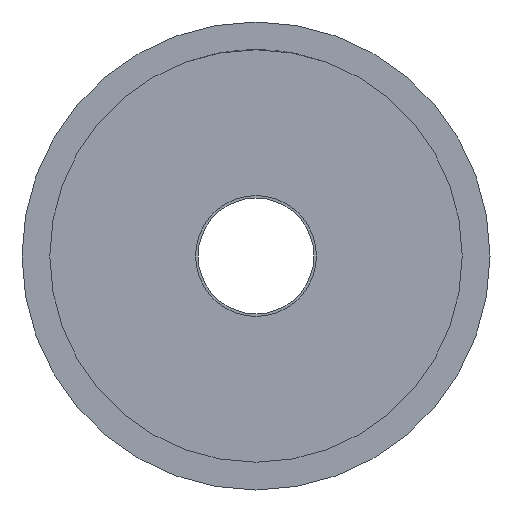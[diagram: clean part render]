
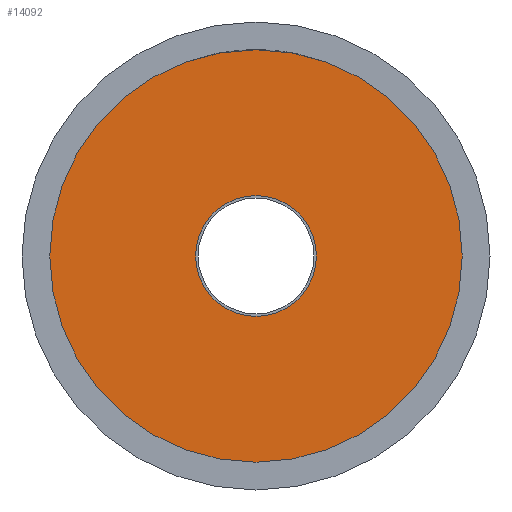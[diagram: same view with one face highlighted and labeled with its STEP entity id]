
A CAD part, front view. The second image highlights one B-rep face of the part: STEP entity #14092.
In plain terms, the highlighted planar face has unit normal (0, -1, 0).
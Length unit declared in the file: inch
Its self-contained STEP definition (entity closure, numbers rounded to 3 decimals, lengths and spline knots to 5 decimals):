
#13775=CARTESIAN_POINT('',(5.11811,2.55906,0.0));
#13776=VERTEX_POINT('',#13775);
#13777=CARTESIAN_POINT('',(0.0,2.55906,0.0));
#13778=DIRECTION('',(0.0,-1.0,0.0));
#13779=DIRECTION('',(1.0,0.0,0.0));
#13780=AXIS2_PLACEMENT_3D('',#13777,#13778,#13779);
#13781=CIRCLE('',#13780,5.11811);
#13782=EDGE_CURVE('',#13776,#13776,#13781,.T.);
#14073=CARTESIAN_POINT('',(3.30906,2.55906,0.0));
#14074=DIRECTION('',(0.0,-1.0,0.0));
#14075=DIRECTION('',(0.0,0.0,-1.0));
#14076=AXIS2_PLACEMENT_3D('',#14073,#14074,#14075);
#14077=PLANE('',#14076);
#14078=ORIENTED_EDGE('',*,*,#13782,.T.);
#14079=EDGE_LOOP('',(#14078));
#14080=FACE_OUTER_BOUND('',#14079,.T.);
#14081=CARTESIAN_POINT('',(1.5,2.55906,0.0));
#14082=VERTEX_POINT('',#14081);
#14083=CARTESIAN_POINT('',(0.0,2.55906,0.0));
#14084=DIRECTION('',(0.0,-1.0,0.0));
#14085=DIRECTION('',(1.0,0.0,0.0));
#14086=AXIS2_PLACEMENT_3D('',#14083,#14084,#14085);
#14087=CIRCLE('',#14086,1.5);
#14088=EDGE_CURVE('',#14082,#14082,#14087,.T.);
#14089=ORIENTED_EDGE('',*,*,#14088,.F.);
#14090=EDGE_LOOP('',(#14089));
#14091=FACE_BOUND('',#14090,.T.);
#14092=ADVANCED_FACE('',(#14080,#14091),#14077,.T.);
